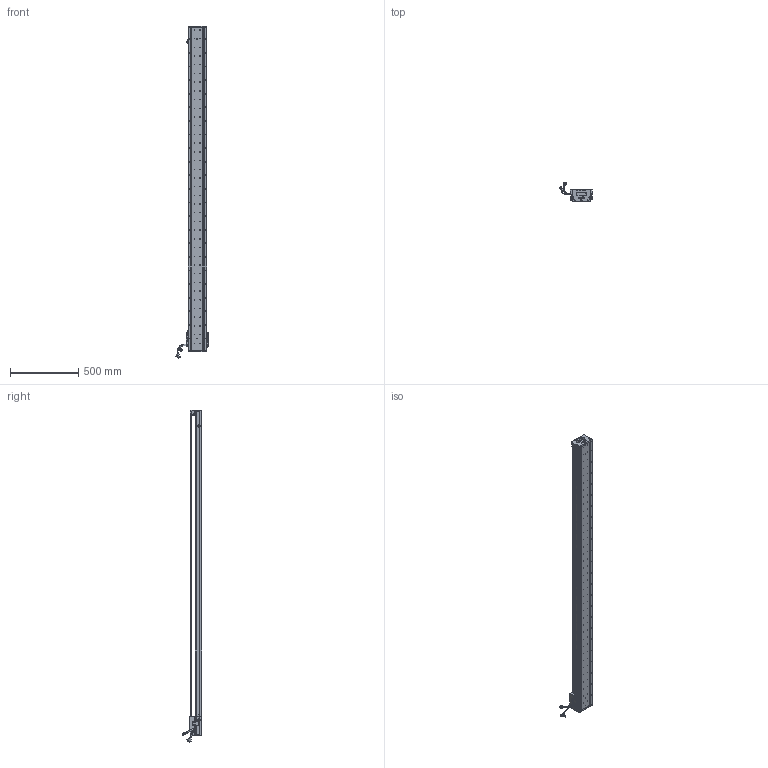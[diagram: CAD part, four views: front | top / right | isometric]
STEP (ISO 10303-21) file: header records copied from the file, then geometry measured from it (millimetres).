
FILE_DESCRIPTION (( 'STEP AP203' ), '1' );
FILE_NAME ('Z1-RY140D-1-L500-B-K.SLDASM_2200.step', '2021-05-17T07:34:23', ( '盈信电脑' ), ( '东莞市道滘镇水果街19号' ), 'SwSTEP 2.0', 'SolidWorks 2016', '' );
FILE_SCHEMA (( 'CONFIG_CONTROL_DESIGN' ));
Length unit declared in the file: millimetre
Products named in the file (36): Z-RY140詩湍奻揤裔; SEAL-Part-1; 140-Z-臏賑輸盄裔(21遴); Z1-RY140D-1-L500-B-K.SLDASM_2200; 080黍杅芛假蚾釱21遴; 140蚥薯蝶輸; LABEL; HOLDER0; 140雄赽晤鎢ん堤盄; SCREW-M1.6; Z1-RY140-L500詩湍100mm遵_2200; SCREW-M1.6-2; Z1-RY140-L500直线电机模组底座_2200; SCREW-M1.6-1; HARNESS; PSLH080_PSLF2; COVER; PBU_SHEET; SCREW-M1.7-1; SEAL; Z-RY140感应器672光电感应片; HARNESS-Part-1; Z1-RY140圉猾敕臏賑輸(21遴); Z-140詩湍傷裔啣; 榋妏寠巭燃_暯_M2_2; 覜茼ん672; Z-RY140詩湍狟揤裔; SCALE-Part-2; COVER-Part-1; LABEL-Part-1; SCALE; HARNESS-Part-2; SCALE-Part-1; SCREW-M1.6-3; SHIELDPLATE; SCREW-M1.7
Assembly tree (41 placements, depth 4):
  Z1-RY140D-1-L500-B-K.SLDASM_2200
    Z1-RY140-L500直线电机模组底座_2200
    Z-RY140感应器672光电感应片
    Z1-RY140圉猾敕臏賑輸(21遴)
    覜茼ん672  x3
    Z1-RY140-L500詩湍100mm遵_2200
    PSLH080_PSLF2
      SCALE
        SCALE-Part-1
        SCALE-Part-2
      HARNESS
        HARNESS-Part-1
        HARNESS-Part-2
      LABEL
        LABEL-Part-1
      COVER
        COVER-Part-1
      SEAL
        SEAL-Part-1
      榋妏寠巭燃_暯_M2_2
      SHIELDPLATE
      SCREW-M1.7
      SCREW-M1.7-1
      PBU_SHEET
      SCREW-M1.6
      SCREW-M1.6-1
      SCREW-M1.6-2
      SCREW-M1.6-3
      HOLDER0
    080黍杅芛假蚾釱21遴
    140-Z-臏賑輸盄裔(21遴)
    Z-140詩湍傷裔啣  x2
    Z-RY140詩湍狟揤裔  x2
    Z-RY140詩湍奻揤裔  x2
    140蚥薯蝶輸  x2
    140雄赽晤鎢ん堤盄
Bounding box: 239.84 x 143.88 x 2440.87 mm (x, y, z)
Volume: 7513800.9 mm3; surface area: 1993081.1 mm2
Topology: 36 solids, 36 shells, 3828 faces, 10390 edges, 6587 vertices
Faces by surface type: cylinder 2032, plane 1316, cone 358, torus 69, bspline 53
Entity records: 120354 total; most frequent: CARTESIAN_POINT 33801, ORIENTED_EDGE 17756, DIRECTION 16482, EDGE_CURVE 8878, AXIS2_PLACEMENT_3D 6100, VERTEX_POINT 5755, VECTOR 4282, LINE 4282
